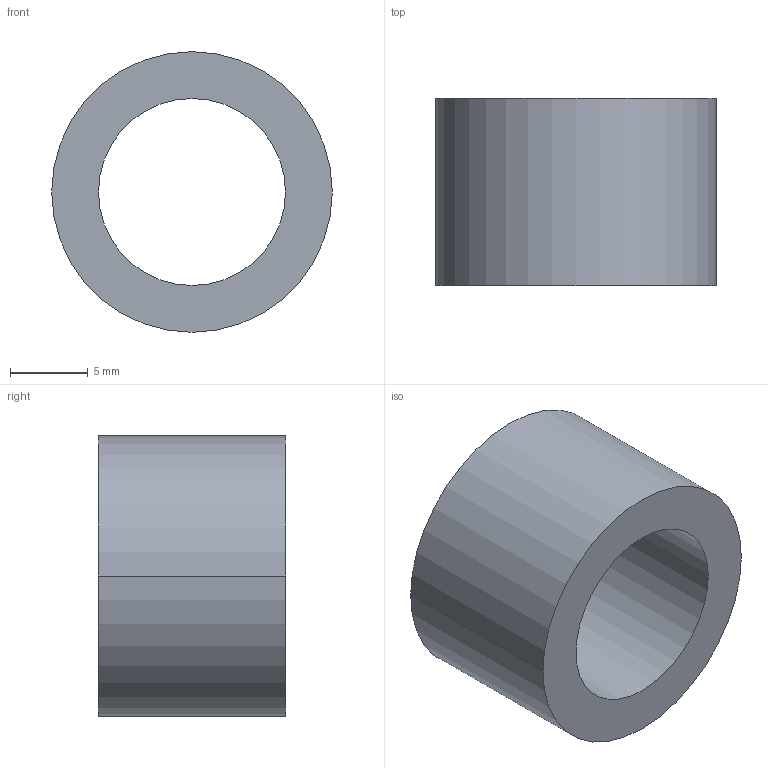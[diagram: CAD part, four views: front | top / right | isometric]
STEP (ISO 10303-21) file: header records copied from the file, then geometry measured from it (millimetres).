
FILE_DESCRIPTION (( 'STEP AP203' ), '1' );
FILE_NAME ('30800.WPP18E12.0.step', '2019-01-23T22:38:34', ( '' ), ( '' ), 'SwSTEP 2.0', 'SolidWorks 2017', '' );
FILE_SCHEMA (( 'CONFIG_CONTROL_DESIGN' ));
Length unit declared in the file: millimetre
Products named in the file (1): 30800.WPP18E12.0
Bounding box: 18 x 12 x 18 mm (x, y, z)
Volume: 1661.7 mm3; surface area: 1383.1 mm2
Topology: 1 solids, 1 shells, 8 faces, 16 edges, 10 vertices
Faces by surface type: cylinder 4, torus 2, plane 2
Entity records: 297 total; most frequent: DIRECTION 46, CARTESIAN_POINT 35, ORIENTED_EDGE 32, AXIS2_PLACEMENT_3D 21, EDGE_CURVE 16, CIRCLE 12, EDGE_LOOP 10, VERTEX_POINT 10
